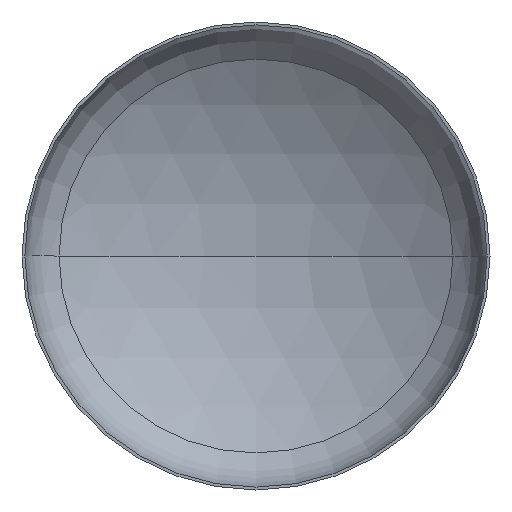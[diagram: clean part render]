
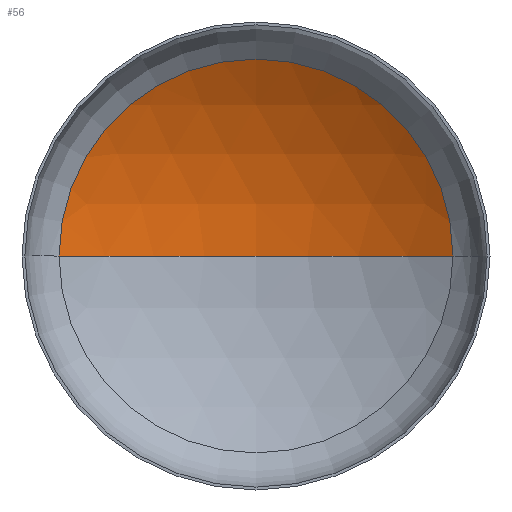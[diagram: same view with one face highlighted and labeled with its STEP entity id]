
A CAD part, front view. The second image highlights one B-rep face of the part: STEP entity #56.
In plain terms, the highlighted spherical face has radius 5600 mm.
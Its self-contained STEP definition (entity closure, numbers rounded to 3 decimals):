
#6 = DIRECTION ( 'NONE',  ( 1., 0., 0. ) ) ;
#11 = CARTESIAN_POINT ( 'NONE',  ( 0., 1048.6, 0. ) ) ;
#15 = VERTEX_POINT ( 'NONE', #272 ) ;
#19 = DIRECTION ( 'NONE',  ( 0., -1., 0. ) ) ;
#34 = ORIENTED_EDGE ( 'NONE', *, *, #168, .T. ) ;
#44 = ORIENTED_EDGE ( 'NONE', *, *, #177, .T. ) ;
#56 = ADVANCED_FACE ( 'NONE', ( #364 ), #184, .F. ) ;
#70 = AXIS2_PLACEMENT_3D ( 'NONE', #159, #179, #199 ) ;
#74 = AXIS2_PLACEMENT_3D ( 'NONE', #11, #19, #6 ) ;
#80 = VERTEX_POINT ( 'NONE', #233 ) ;
#81 = AXIS2_PLACEMENT_3D ( 'NONE', #230, #377, #397 ) ;
#112 = ORIENTED_EDGE ( 'NONE', *, *, #181, .F. ) ;
#120 = CIRCLE ( 'NONE', #74, 2944.956 ) ;
#126 = AXIS2_PLACEMENT_3D ( 'NONE', #347, #240, #239 ) ;
#131 = EDGE_LOOP ( 'NONE', ( #112, #44, #34 ) ) ;
#159 = CARTESIAN_POINT ( 'NONE',  ( 0., -3714.512, 0. ) ) ;
#162 = VERTEX_POINT ( 'NONE', #331 ) ;
#168 = EDGE_CURVE ( 'NONE', #15, #80, #120, .T. ) ;
#177 = EDGE_CURVE ( 'NONE', #162, #15, #220, .T. ) ;
#179 = DIRECTION ( 'NONE',  ( 0., 0., 1. ) ) ;
#181 = EDGE_CURVE ( 'NONE', #162, #80, #288, .T. ) ;
#184 = SPHERICAL_SURFACE ( 'NONE', #126, 5600. ) ;
#199 = DIRECTION ( 'NONE',  ( 1., 0., 0. ) ) ;
#220 = CIRCLE ( 'NONE', #81, 5600. ) ;
#230 = CARTESIAN_POINT ( 'NONE',  ( 0., -3714.512, 0. ) ) ;
#233 = CARTESIAN_POINT ( 'NONE',  ( -2944.956, 1048.6, 0. ) ) ;
#239 = DIRECTION ( 'NONE',  ( -1., 0., 0. ) ) ;
#240 = DIRECTION ( 'NONE',  ( 0., 0., -1. ) ) ;
#272 = CARTESIAN_POINT ( 'NONE',  ( 2944.956, 1048.6, 0. ) ) ;
#288 = CIRCLE ( 'NONE', #70, 5600. ) ;
#331 = CARTESIAN_POINT ( 'NONE',  ( 0., 1885.488, 0. ) ) ;
#347 = CARTESIAN_POINT ( 'NONE',  ( 0., -3714.512, 0. ) ) ;
#364 = FACE_OUTER_BOUND ( 'NONE', #131, .T. ) ;
#377 = DIRECTION ( 'NONE',  ( 0., 0., -1. ) ) ;
#397 = DIRECTION ( 'NONE',  ( -1., 0., 0. ) ) ;
